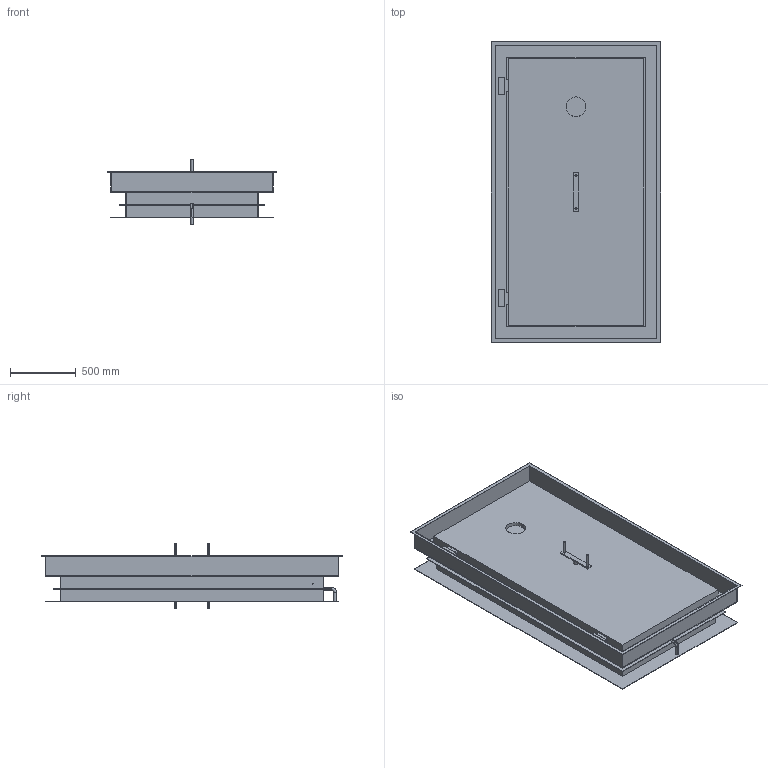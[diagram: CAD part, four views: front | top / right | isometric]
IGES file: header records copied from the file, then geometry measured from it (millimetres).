
Start section:  PTC IGES file: 51331162.igs
Global section: file name: 51331162.igs; native system: Creo Parametric by Parametric Technology Corporation; preprocessor: 2017170; author: bg; organization: Unknown; date: 20190315.110504; units: millimetre
Bounding box: 1290 x 2290 x 495 mm (x, y, z)
Surface area: 13614647.2 mm2 (no closed solid volume)
Topology: 0 solids, 0 shells, 126 faces, 604 edges, 604 vertices
Faces by surface type: bspline 96, revolution 30
